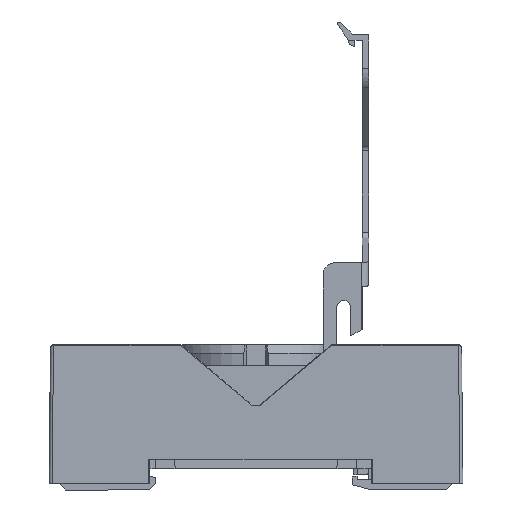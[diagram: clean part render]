
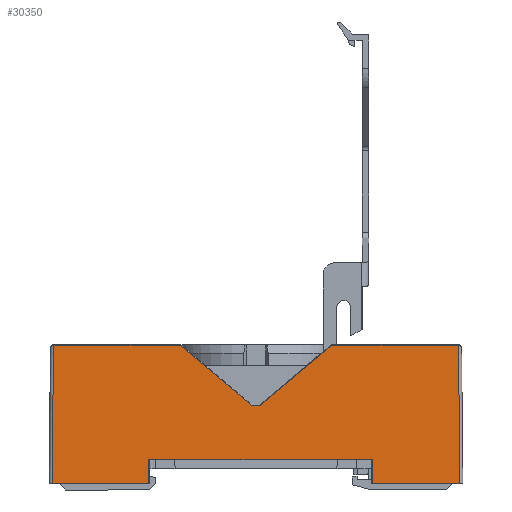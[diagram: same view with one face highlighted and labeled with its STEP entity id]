
A CAD part, left-side view. The second image highlights one B-rep face of the part: STEP entity #30350.
In plain terms, the highlighted planar face has unit normal (-1, 0, 0.009).
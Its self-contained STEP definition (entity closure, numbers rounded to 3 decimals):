
#537 = EDGE_CURVE ( 'NONE', #15431, #22462, #7578, .T. ) ;
#1462 = EDGE_CURVE ( 'NONE', #23588, #45222, #34534, .T. ) ;
#1870 = CARTESIAN_POINT ( 'NONE',  ( 0.2, 46.719, 23.924 ) ) ;
#1874 = CARTESIAN_POINT ( 'NONE',  ( 0.2, 21.684, 23.901 ) ) ;
#1927 = DIRECTION ( 'NONE',  ( 0., 1., 0. ) ) ;
#2248 = VERTEX_POINT ( 'NONE', #38726 ) ;
#3791 = DIRECTION ( 'NONE',  ( 0., -1., 0. ) ) ;
#4325 = DIRECTION ( 'NONE',  ( -0.006, 0.766, -0.643 ) ) ;
#5713 = ORIENTED_EDGE ( 'NONE', *, *, #9392, .T. ) ;
#6258 = EDGE_CURVE ( 'NONE', #2248, #12997, #42609, .T. ) ;
#6517 = LINE ( 'NONE', #20550, #42129 ) ;
#6820 = CARTESIAN_POINT ( 'NONE',  ( 0.035, 15.088, 5. ) ) ;
#6829 = EDGE_CURVE ( 'NONE', #9165, #2248, #41591, .T. ) ;
#7055 = LINE ( 'NONE', #6820, #11785 ) ;
#7578 = LINE ( 'NONE', #18158, #26901 ) ;
#8287 = VERTEX_POINT ( 'NONE', #43939 ) ;
#9165 = VERTEX_POINT ( 'NONE', #14442 ) ;
#9244 = EDGE_CURVE ( 'NONE', #12997, #34860, #33144, .T. ) ;
#9392 = EDGE_CURVE ( 'NONE', #45285, #9165, #11608, .T. ) ;
#9929 = ORIENTED_EDGE ( 'NONE', *, *, #25196, .T. ) ;
#10400 = LINE ( 'NONE', #35548, #26905 ) ;
#11048 = VECTOR ( 'NONE', #32006, 1000. ) ;
#11589 = CARTESIAN_POINT ( 'NONE',  ( 0., 14.931, 1. ) ) ;
#11608 = LINE ( 'NONE', #22652, #34841 ) ;
#11768 = CARTESIAN_POINT ( 'NONE',  ( 0.2, 0.7, 23.901 ) ) ;
#11785 = VECTOR ( 'NONE', #3791, 1000. ) ;
#11843 = CARTESIAN_POINT ( 'NONE',  ( 0.17, 34.188, 20.5 ) ) ;
#12478 = ORIENTED_EDGE ( 'NONE', *, *, #6258, .T. ) ;
#12799 = ORIENTED_EDGE ( 'NONE', *, *, #38108, .T. ) ;
#12988 = DIRECTION ( 'NONE',  ( 0., 1., 0. ) ) ;
#12997 = VERTEX_POINT ( 'NONE', #38300 ) ;
#14442 = CARTESIAN_POINT ( 'NONE',  ( 0.2, 67.675, 23.901 ) ) ;
#15226 = LINE ( 'NONE', #1870, #30225 ) ;
#15431 = VERTEX_POINT ( 'NONE', #1874 ) ;
#16438 = CARTESIAN_POINT ( 'NONE',  ( 0.035, 14.965, 5. ) ) ;
#16888 = LINE ( 'NONE', #26814, #21977 ) ;
#17479 = ORIENTED_EDGE ( 'NONE', *, *, #537, .T. ) ;
#18158 = CARTESIAN_POINT ( 'NONE',  ( 0.113, 33.574, 13.924 ) ) ;
#18431 = ORIENTED_EDGE ( 'NONE', *, *, #34765, .T. ) ;
#18978 = DIRECTION ( 'NONE',  ( 0.009, 0., 1. ) ) ;
#19566 = ORIENTED_EDGE ( 'NONE', *, *, #42880, .T. ) ;
#19789 = CARTESIAN_POINT ( 'NONE',  ( 0.2, 46.692, 23.901 ) ) ;
#20550 = CARTESIAN_POINT ( 'NONE',  ( 0.159, 15.089, 19.166 ) ) ;
#21977 = VECTOR ( 'NONE', #12988, 1000. ) ;
#22312 = VERTEX_POINT ( 'NONE', #11589 ) ;
#22462 = VERTEX_POINT ( 'NONE', #36568 ) ;
#22652 = CARTESIAN_POINT ( 'NONE',  ( 0.2, 67.675, 23.901 ) ) ;
#23364 = ORIENTED_EDGE ( 'NONE', *, *, #1462, .T. ) ;
#23588 = VERTEX_POINT ( 'NONE', #38518 ) ;
#25055 = EDGE_LOOP ( 'NONE', ( #23364, #35503, #17479, #18431, #45622, #5713, #27927, #12478, #28779, #12799, #19566, #9929 ) ) ;
#25148 = DIRECTION ( 'NONE',  ( 0., 1., 0. ) ) ;
#25196 = EDGE_CURVE ( 'NONE', #22312, #23588, #39233, .T. ) ;
#25225 = DIRECTION ( 'NONE',  ( 0., -1., 0. ) ) ;
#25877 = DIRECTION ( 'NONE',  ( -1., 0., 0.009 ) ) ;
#26165 = DIRECTION ( 'NONE',  ( 0.009, -0.009, 1. ) ) ;
#26669 = VECTOR ( 'NONE', #26165, 1000. ) ;
#26814 = CARTESIAN_POINT ( 'NONE',  ( 0.113, 34.738, 13.901 ) ) ;
#26901 = VECTOR ( 'NONE', #4325, 1000. ) ;
#26905 = VECTOR ( 'NONE', #25148, 1000. ) ;
#27927 = ORIENTED_EDGE ( 'NONE', *, *, #6829, .T. ) ;
#28021 = CARTESIAN_POINT ( 'NONE',  ( 0.173, 0.673, 20.792 ) ) ;
#28621 = VECTOR ( 'NONE', #31501, 1000. ) ;
#28768 = CARTESIAN_POINT ( 'NONE',  ( 0., 0.188, 1. ) ) ;
#28779 = ORIENTED_EDGE ( 'NONE', *, *, #9244, .T. ) ;
#29692 = VERTEX_POINT ( 'NONE', #16438 ) ;
#29848 = PLANE ( 'NONE',  #40632 ) ;
#30225 = VECTOR ( 'NONE', #40000, 1000. ) ;
#30350 = ADVANCED_FACE ( 'NONE', ( #44223 ), #29848, .T. ) ;
#30720 = VECTOR ( 'NONE', #25225, 1000. ) ;
#31373 = DIRECTION ( 'NONE',  ( -0.009, 0.009, -1. ) ) ;
#31501 = DIRECTION ( 'NONE',  ( 0.009, 0.009, 1. ) ) ;
#32006 = DIRECTION ( 'NONE',  ( 0., -1., 0. ) ) ;
#33144 = LINE ( 'NONE', #36151, #26669 ) ;
#34534 = LINE ( 'NONE', #28021, #28621 ) ;
#34765 = EDGE_CURVE ( 'NONE', #22462, #8287, #16888, .T. ) ;
#34841 = VECTOR ( 'NONE', #1927, 1000. ) ;
#34860 = VERTEX_POINT ( 'NONE', #38164 ) ;
#35503 = ORIENTED_EDGE ( 'NONE', *, *, #45117, .T. ) ;
#35548 = CARTESIAN_POINT ( 'NONE',  ( 0.2, 21.72, 23.901 ) ) ;
#35634 = CARTESIAN_POINT ( 'NONE',  ( 0., 51.788, 1. ) ) ;
#36151 = CARTESIAN_POINT ( 'NONE',  ( 0.159, 51.786, 19.166 ) ) ;
#36568 = CARTESIAN_POINT ( 'NONE',  ( 0.113, 33.601, 13.901 ) ) ;
#38108 = EDGE_CURVE ( 'NONE', #34860, #29692, #7055, .T. ) ;
#38164 = CARTESIAN_POINT ( 'NONE',  ( 0.035, 51.91, 5. ) ) ;
#38300 = CARTESIAN_POINT ( 'NONE',  ( 0., 51.945, 1. ) ) ;
#38518 = CARTESIAN_POINT ( 'NONE',  ( 0., 0.5, 1. ) ) ;
#38726 = CARTESIAN_POINT ( 'NONE',  ( 0., 67.875, 1. ) ) ;
#39233 = LINE ( 'NONE', #28768, #11048 ) ;
#40000 = DIRECTION ( 'NONE',  ( 0.006, 0.766, 0.643 ) ) ;
#40632 = AXIS2_PLACEMENT_3D ( 'NONE', #11843, #25877, #18978 ) ;
#41191 = DIRECTION ( 'NONE',  ( -0.009, -0.009, -1. ) ) ;
#41591 = LINE ( 'NONE', #41822, #41618 ) ;
#41618 = VECTOR ( 'NONE', #31373, 1000. ) ;
#41822 = CARTESIAN_POINT ( 'NONE',  ( 0.173, 67.703, 20.792 ) ) ;
#42129 = VECTOR ( 'NONE', #41191, 1000. ) ;
#42267 = EDGE_CURVE ( 'NONE', #8287, #45285, #15226, .T. ) ;
#42609 = LINE ( 'NONE', #35634, #30720 ) ;
#42880 = EDGE_CURVE ( 'NONE', #29692, #22312, #6517, .T. ) ;
#43939 = CARTESIAN_POINT ( 'NONE',  ( 0.113, 34.774, 13.901 ) ) ;
#44223 = FACE_OUTER_BOUND ( 'NONE', #25055, .T. ) ;
#45117 = EDGE_CURVE ( 'NONE', #45222, #15431, #10400, .T. ) ;
#45222 = VERTEX_POINT ( 'NONE', #11768 ) ;
#45285 = VERTEX_POINT ( 'NONE', #19789 ) ;
#45622 = ORIENTED_EDGE ( 'NONE', *, *, #42267, .T. ) ;
